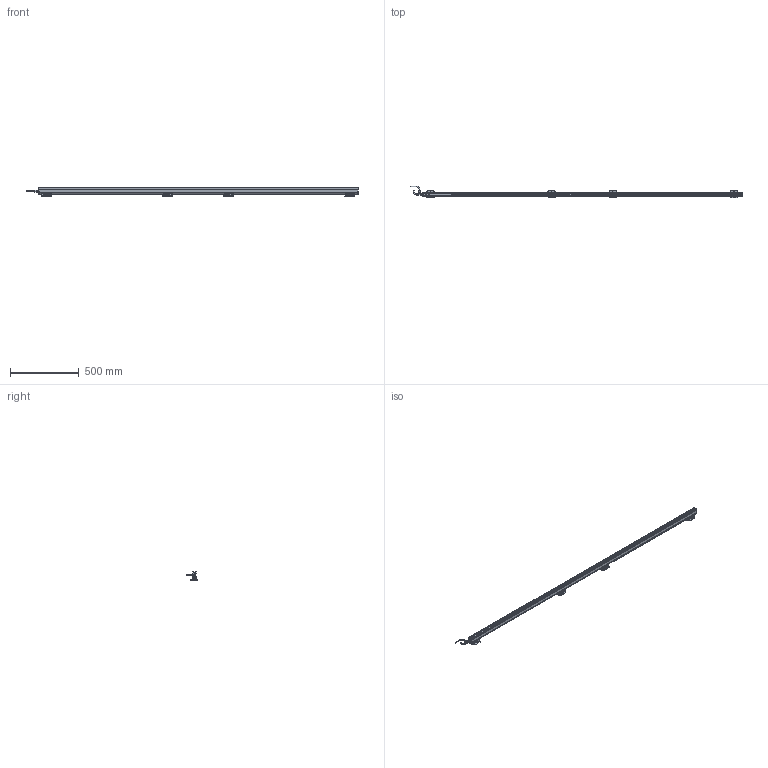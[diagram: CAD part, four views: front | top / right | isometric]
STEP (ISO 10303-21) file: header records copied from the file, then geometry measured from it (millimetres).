
FILE_DESCRIPTION(('Bauteilbeschreibung','HiCAD-Model','HiCAD-STEP-TRANSLATION','Bauteilbeschreibung'),'2;1');
FILE_NAME('PERFORMAXIQEASY_2250-2340_3D.STP','2014-03-05T12:48:53+00:00',('Konstrukteur'),('Konstrukteur Firma GmbH'),' HiCAD 2011, Step 1600.0 ','HiCAD 2011','confidential');
FILE_SCHEMA(('AUTOMOTIVE_DESIGN { 1 2 10303 214 0 1 1 1 }'));
Products named in the file (46): PERFORMAXIQEASY_2250_2340_3D; A_PERFORMAX IQ EASY 2250_2340; A_PERFORMAX IQ EASY SPEED; A_CAP DE; A_CAP CE_5; LED_2C_3MM; LED02C03MM; A519020315_CONNECTOR APPLIANCE; A_INSERT; A_CONTACTS; A_HOUSING; A_PROFILE; A_POTTING; PIN; PIN0; A532000100_BRACKET BARS_ MOUNT; A_SIDE PIECE; A0SIDE0PIECE; A_BRACKET SMALL; A_SLIDE PIECE; A5320001000BRACKET0BARS00MOUNT; A0SIDE0PIECE0; A0SIDE0PIECE1; A0BRACKET0SMALL; A0SLIDE0PIECE; A5320001000BRACKET0BARS00MOUNT0; A0SIDE0PIECE2; A0SIDE0PIECE3; A0BRACKET0SMALL0; A0SLIDE0PIECE0; A0SIDE0PIECE4; A0SIDE0PIECE5; A0BRACKET0SMALL1; A0SLIDE0PIECE1; A_CONNECTOR STRAIGHT; EXTRUDED SOLID_0; DRAAD GEBOGEN; REVOLVED SOLID_1; REVOLVED SOLID_3; A_CONNECTOR ANGLED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
Assembly tree (45 placements, depth 5):
  PERFORMAXIQEASY_2250_2340_3D
    A_PERFORMAX IQ EASY 2250_2340
      A_PERFORMAX IQ EASY SPEED
        A_CAP DE
        A_CAP CE_5
        LED_2C_3MM
        LED02C03MM
        A519020315_CONNECTOR APPLIANCE
          A_INSERT
          A_CONTACTS
          A_HOUSING
        A_PROFILE
        A_POTTING
        PIN
        PIN0
      A532000100_BRACKET BARS_ MOUNT
        A_SIDE PIECE
        A0SIDE0PIECE
        A_BRACKET SMALL
        A_SLIDE PIECE
      A5320001000BRACKET0BARS00MOUNT
        A0SIDE0PIECE0
        A0SIDE0PIECE1
        A0BRACKET0SMALL
        A0SLIDE0PIECE
      A5320001000BRACKET0BARS00MOUNT0
        A0SIDE0PIECE2
        A0SIDE0PIECE3
        A0BRACKET0SMALL0
        A0SLIDE0PIECE0
      A5320001000BRACKET0BARS00MOUNT0
        A0SIDE0PIECE4
        A0SIDE0PIECE5
        A0BRACKET0SMALL1
        A0SLIDE0PIECE1
      A_CONNECTOR STRAIGHT
        EXTRUDED SOLID_0
        DRAAD GEBOGEN
        REVOLVED SOLID_1
        REVOLVED SOLID_3
      A_CONNECTOR ANGLED
        REVOLVED0SOLID01
        EXTRUDED0SOLID00
        C_EDGE SWEEP_0
        REVOLVED SOLID_2
        REVOLVED0SOLID03
Bounding box: 2417.89 x 84.27 x 63.13 mm (x, y, z)
Volume: 2422332.8 mm3; surface area: 599519.4 mm2
Topology: 41 solids, 41 shells, 3447 faces, 8839 edges, 5258 vertices
Faces by surface type: cylinder 1457, plane 1315, sphere 222, torus 205, bspline 168, cone 80
Full cylindrical faces by diameter (mm): 0.8 x10, 1 x5, 2.387 x8, 3 x19, 3.1 x1, 4.2 x2, 5 x4, 5.5 x20, 8 x2, 8.2 x1, 8.4 x2, 8.945 x1, 9 x2, 10.2 x1, 10.5 x3, 11 x1, 12 x3, 12.8 x1, 13.8 x4, 14.5 x3
Entity records: 159221 total; most frequent: CARTESIAN_POINT 37152, DIRECTION 17145, ORIENTED_EDGE 16748, EDGE_CURVE 8374, COLOUR_RGB 7959, PRESENTATION_STYLE_ASSIGNMENT 7959, OVER_RIDING_STYLED_ITEM 7923, CURVE_STYLE 7918
